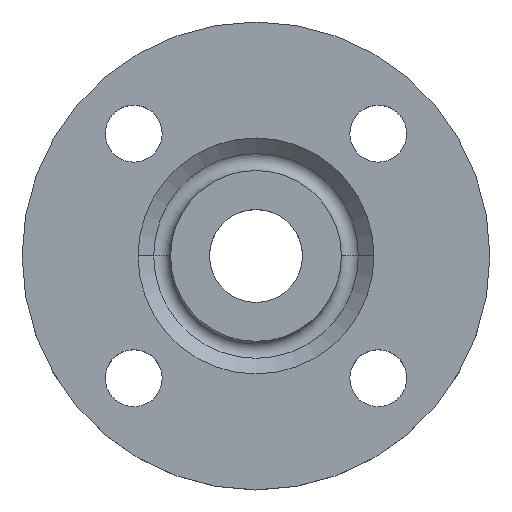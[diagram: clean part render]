
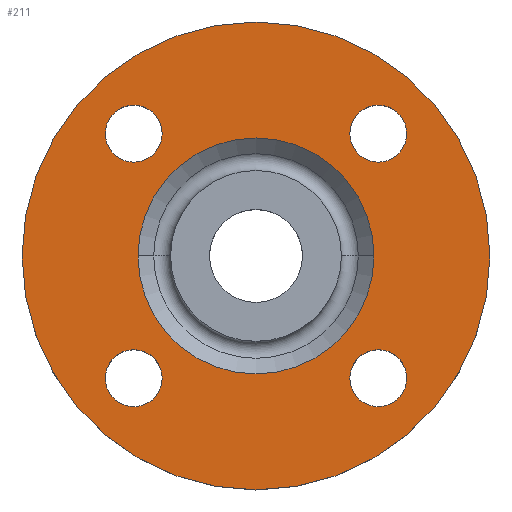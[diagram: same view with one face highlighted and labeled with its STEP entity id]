
A CAD part, top view. The second image highlights one B-rep face of the part: STEP entity #211.
In plain terms, the highlighted planar face has unit normal (0, 0, 1).
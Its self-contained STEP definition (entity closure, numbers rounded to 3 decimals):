
#7 = CARTESIAN_POINT ( 'NONE',  ( -37.052, 30.052, -2. ) ) ;
#18 = CARTESIAN_POINT ( 'NONE',  ( 23.052, 30.052, -2. ) ) ;
#21 = CARTESIAN_POINT ( 'NONE',  ( -29., 0., -2. ) ) ;
#24 = DIRECTION ( 'NONE',  ( 1., 0., 0. ) ) ;
#27 = DIRECTION ( 'NONE',  ( 0., 0., -1. ) ) ;
#28 = CARTESIAN_POINT ( 'NONE',  ( -30.052, 30.052, -2. ) ) ;
#37 = CARTESIAN_POINT ( 'NONE',  ( 57.5, 0., -2. ) ) ;
#38 = CARTESIAN_POINT ( 'NONE',  ( 23.052, -30.052, -2. ) ) ;
#41 = CARTESIAN_POINT ( 'NONE',  ( 29., 0., -2. ) ) ;
#54 = DIRECTION ( 'NONE',  ( 1., 0., 0. ) ) ;
#55 = DIRECTION ( 'NONE',  ( 0., 0., -1. ) ) ;
#56 = CARTESIAN_POINT ( 'NONE',  ( 30.052, -30.052, -2. ) ) ;
#70 = AXIS2_PLACEMENT_3D ( 'NONE', #75, #74, #73 ) ;
#73 = DIRECTION ( 'NONE',  ( 1., 0., 0. ) ) ;
#74 = DIRECTION ( 'NONE',  ( 0., 0., -1. ) ) ;
#75 = CARTESIAN_POINT ( 'NONE',  ( -30.052, -30.052, -2. ) ) ;
#78 = CIRCLE ( 'NONE', #217, 7. ) ;
#79 = AXIS2_PLACEMENT_3D ( 'NONE', #733, #734, #735 ) ;
#80 = CARTESIAN_POINT ( 'NONE',  ( -23.052, -30.052, -2. ) ) ;
#81 = EDGE_CURVE ( 'NONE', #653, #504, #305, .T. ) ;
#88 = CARTESIAN_POINT ( 'NONE',  ( -57.5, 0., -2. ) ) ;
#89 = DIRECTION ( 'NONE',  ( 0., 0., -1. ) ) ;
#91 = DIRECTION ( 'NONE',  ( 1., 0., 0. ) ) ;
#94 = CARTESIAN_POINT ( 'NONE',  ( 30.052, 30.052, -2. ) ) ;
#100 = EDGE_CURVE ( 'NONE', #503, #608, #336, .T. ) ;
#113 = EDGE_CURVE ( 'NONE', #673, #647, #514, .T. ) ;
#131 = AXIS2_PLACEMENT_3D ( 'NONE', #749, #752, #753 ) ;
#148 = FACE_OUTER_BOUND ( 'NONE', #643, .T. ) ;
#150 = PLANE ( 'NONE',  #254 ) ;
#151 = CARTESIAN_POINT ( 'NONE',  ( 57.5, 0., -2. ) ) ;
#157 = AXIS2_PLACEMENT_3D ( 'NONE', #28, #27, #24 ) ;
#160 = DIRECTION ( 'NONE',  ( 0., 0., 1. ) ) ;
#167 = DIRECTION ( 'NONE',  ( 1., 0., 0. ) ) ;
#173 = CIRCLE ( 'NONE', #157, 7. ) ;
#192 = DIRECTION ( 'NONE',  ( 0., 0., -1. ) ) ;
#197 = EDGE_CURVE ( 'NONE', #600, #633, #214, .T. ) ;
#199 = EDGE_CURVE ( 'NONE', #606, #658, #233, .T. ) ;
#211 = ADVANCED_FACE ( 'NONE', ( #245, #261, #260, #250, #252, #148 ), #150, .T. ) ;
#214 = CIRCLE ( 'NONE', #231, 29. ) ;
#217 = AXIS2_PLACEMENT_3D ( 'NONE', #56, #55, #54 ) ;
#231 = AXIS2_PLACEMENT_3D ( 'NONE', #806, #807, #808 ) ;
#233 = CIRCLE ( 'NONE', #247, 7. ) ;
#241 = CARTESIAN_POINT ( 'NONE',  ( 37.052, 30.052, -2. ) ) ;
#245 = FACE_BOUND ( 'NONE', #637, .T. ) ;
#247 = AXIS2_PLACEMENT_3D ( 'NONE', #809, #810, #811 ) ;
#250 = FACE_BOUND ( 'NONE', #667, .T. ) ;
#252 = FACE_BOUND ( 'NONE', #649, .T. ) ;
#254 = AXIS2_PLACEMENT_3D ( 'NONE', #151, #160, #793 ) ;
#260 = FACE_BOUND ( 'NONE', #670, .T. ) ;
#261 = FACE_BOUND ( 'NONE', #522, .T. ) ;
#267 = CARTESIAN_POINT ( 'NONE',  ( 0., 0., -2. ) ) ;
#303 = CIRCLE ( 'NONE', #309, 29. ) ;
#305 = CIRCLE ( 'NONE', #445, 7. ) ;
#309 = AXIS2_PLACEMENT_3D ( 'NONE', #357, #358, #360 ) ;
#311 = CARTESIAN_POINT ( 'NONE',  ( -37.052, -30.052, -2. ) ) ;
#315 = AXIS2_PLACEMENT_3D ( 'NONE', #94, #89, #91 ) ;
#318 = CIRCLE ( 'NONE', #315, 7. ) ;
#336 = CIRCLE ( 'NONE', #79, 57.5 ) ;
#348 = EDGE_CURVE ( 'NONE', #633, #600, #303, .T. ) ;
#350 = AXIS2_PLACEMENT_3D ( 'NONE', #267, #192, #645 ) ;
#352 = CARTESIAN_POINT ( 'NONE',  ( 30.052, 30.052, -2. ) ) ;
#356 = CIRCLE ( 'NONE', #350, 57.5 ) ;
#357 = CARTESIAN_POINT ( 'NONE',  ( 0., 0., -2. ) ) ;
#358 = DIRECTION ( 'NONE',  ( 0., 0., -1. ) ) ;
#360 = DIRECTION ( 'NONE',  ( -1., 0., 0. ) ) ;
#398 = CARTESIAN_POINT ( 'NONE',  ( 37.052, -30.052, -2. ) ) ;
#415 = CIRCLE ( 'NONE', #418, 7. ) ;
#418 = AXIS2_PLACEMENT_3D ( 'NONE', #352, #699, #167 ) ;
#444 = EDGE_CURVE ( 'NONE', #608, #503, #356, .T. ) ;
#445 = AXIS2_PLACEMENT_3D ( 'NONE', #719, #720, #721 ) ;
#491 = EDGE_CURVE ( 'NONE', #668, #636, #318, .T. ) ;
#503 = VERTEX_POINT ( 'NONE', #88 ) ;
#504 = VERTEX_POINT ( 'NONE', #80 ) ;
#511 = ORIENTED_EDGE ( 'NONE', *, *, #584, .T. ) ;
#513 = ORIENTED_EDGE ( 'NONE', *, *, #199, .T. ) ;
#514 = CIRCLE ( 'NONE', #131, 7. ) ;
#515 = ORIENTED_EDGE ( 'NONE', *, *, #530, .T. ) ;
#516 = ORIENTED_EDGE ( 'NONE', *, *, #81, .T. ) ;
#517 = ORIENTED_EDGE ( 'NONE', *, *, #113, .T. ) ;
#518 = CARTESIAN_POINT ( 'NONE',  ( -23.052, 30.052, -2. ) ) ;
#519 = ORIENTED_EDGE ( 'NONE', *, *, #625, .T. ) ;
#520 = ORIENTED_EDGE ( 'NONE', *, *, #491, .T. ) ;
#521 = ORIENTED_EDGE ( 'NONE', *, *, #655, .T. ) ;
#522 = EDGE_LOOP ( 'NONE', ( #515, #516 ) ) ;
#523 = ORIENTED_EDGE ( 'NONE', *, *, #197, .T. ) ;
#526 = ORIENTED_EDGE ( 'NONE', *, *, #348, .T. ) ;
#527 = ORIENTED_EDGE ( 'NONE', *, *, #444, .F. ) ;
#528 = ORIENTED_EDGE ( 'NONE', *, *, #100, .F. ) ;
#530 = EDGE_CURVE ( 'NONE', #504, #653, #770, .T. ) ;
#584 = EDGE_CURVE ( 'NONE', #658, #606, #78, .T. ) ;
#600 = VERTEX_POINT ( 'NONE', #41 ) ;
#606 = VERTEX_POINT ( 'NONE', #38 ) ;
#608 = VERTEX_POINT ( 'NONE', #37 ) ;
#625 = EDGE_CURVE ( 'NONE', #647, #673, #173, .T. ) ;
#633 = VERTEX_POINT ( 'NONE', #21 ) ;
#636 = VERTEX_POINT ( 'NONE', #18 ) ;
#637 = EDGE_LOOP ( 'NONE', ( #511, #513 ) ) ;
#643 = EDGE_LOOP ( 'NONE', ( #527, #528 ) ) ;
#645 = DIRECTION ( 'NONE',  ( -1., 0., 0. ) ) ;
#647 = VERTEX_POINT ( 'NONE', #7 ) ;
#649 = EDGE_LOOP ( 'NONE', ( #523, #526 ) ) ;
#653 = VERTEX_POINT ( 'NONE', #311 ) ;
#655 = EDGE_CURVE ( 'NONE', #636, #668, #415, .T. ) ;
#658 = VERTEX_POINT ( 'NONE', #398 ) ;
#667 = EDGE_LOOP ( 'NONE', ( #520, #521 ) ) ;
#668 = VERTEX_POINT ( 'NONE', #241 ) ;
#670 = EDGE_LOOP ( 'NONE', ( #517, #519 ) ) ;
#673 = VERTEX_POINT ( 'NONE', #518 ) ;
#699 = DIRECTION ( 'NONE',  ( 0., 0., -1. ) ) ;
#719 = CARTESIAN_POINT ( 'NONE',  ( -30.052, -30.052, -2. ) ) ;
#720 = DIRECTION ( 'NONE',  ( 0., 0., -1. ) ) ;
#721 = DIRECTION ( 'NONE',  ( 1., 0., 0. ) ) ;
#733 = CARTESIAN_POINT ( 'NONE',  ( 0., 0., -2. ) ) ;
#734 = DIRECTION ( 'NONE',  ( 0., 0., -1. ) ) ;
#735 = DIRECTION ( 'NONE',  ( -1., 0., 0. ) ) ;
#749 = CARTESIAN_POINT ( 'NONE',  ( -30.052, 30.052, -2. ) ) ;
#752 = DIRECTION ( 'NONE',  ( 0., 0., -1. ) ) ;
#753 = DIRECTION ( 'NONE',  ( 1., 0., 0. ) ) ;
#770 = CIRCLE ( 'NONE', #70, 7. ) ;
#793 = DIRECTION ( 'NONE',  ( 1., 0., 0. ) ) ;
#806 = CARTESIAN_POINT ( 'NONE',  ( 0., 0., -2. ) ) ;
#807 = DIRECTION ( 'NONE',  ( 0., 0., -1. ) ) ;
#808 = DIRECTION ( 'NONE',  ( -1., 0., 0. ) ) ;
#809 = CARTESIAN_POINT ( 'NONE',  ( 30.052, -30.052, -2. ) ) ;
#810 = DIRECTION ( 'NONE',  ( 0., 0., -1. ) ) ;
#811 = DIRECTION ( 'NONE',  ( 1., 0., 0. ) ) ;
